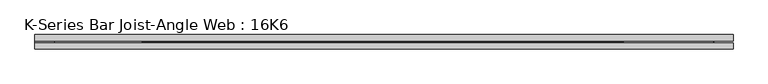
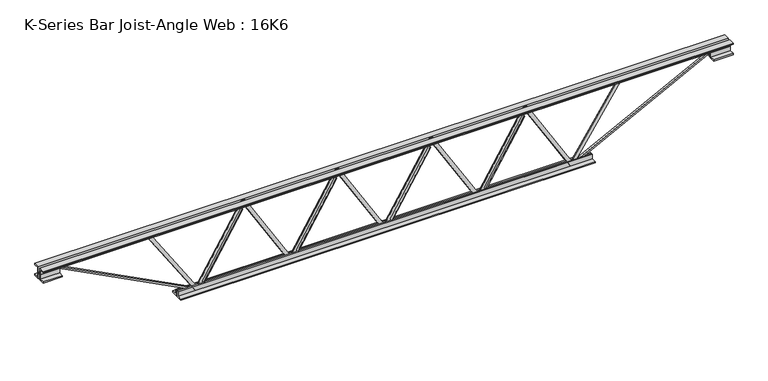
"""IFC4 building model written with IfcOpenShell, lengths in millimetres: beam geometry, K-Series Bar Joist-Angle Web : 16K6."""

from ifc_helpers import new_model, si_unit, frame, origin, place, context, project, spatial, polyline, outline, extrude, faceted_brep, source, transform, mapped, element, save


def k_series_bar_joist_angle_web_16k6_a3398b17(model_context):
    return source(origin(), model_context, "Body", "SolidModel", [
        extrude(outline(polyline([(-4.75, 4.7625), (-4.75, 0.0), (-17.45, 0.0), (-17.45, 4.7625), (-4.75, 4.7625)])), frame((452.6674322, 0.0, -164.9), z_axis=(-0.5172872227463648, 0.0, 0.8558118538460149), x_axis=(0.0, -1.0, 0.0)), (0.0, 0.0, 1.0), 385.3650759),
        extrude(outline(polyline([(-199.825, 485.5), (-180.775, 485.5), (-180.775, 484.5224883), (199.825, 254.4724883), (199.825, 236.4), (180.775, 236.4), (180.775, 243.7275117), (-199.825, 473.7775117), (-199.825, 485.5)])), frame((0.0, 0.0, 0.0), z_axis=(0.0, 1.0, 0.0), x_axis=(0.0, 0.0, 1.0)), (0.0, 0.0, 1.0), 4.75),
        faceted_brep([(0.0, 0.0, -180.775), (0.0, 0.0, -199.825), (0.0, -4.75, -199.825), (0.0, -4.75, -180.775), (0.9775117, 0.0, -180.775), (231.0275117, 0.0, 199.825), (249.1, 0.0, 199.825), (249.1, 0.0, 180.775), (241.7724883, 0.0, 180.775), (11.7224883, 0.0, -199.825), (11.7224883, -4.75, -199.825), (32.8325678, -4.75, -164.9), (28.7567639, -4.75, -162.4364196), (228.1011937, -4.75, 167.3635804), (232.1769977, -4.75, 164.9), (241.7724883, -4.75, 180.775), (249.1, -4.75, 180.775), (249.1, -4.75, 199.825), (231.0275117, -4.75, 199.825), (0.9775117, -4.75, -180.775), (232.1769977, -17.4625, 164.9), (32.8325678, -17.4625, -164.9), (28.7567639, -17.4625, -162.4364196), (228.1011937, -17.4625, 167.3635804)], [[[0, 1, 2, 3]], [[1, 0, 4, 5, 6, 7, 8, 9]], [[2, 1, 9, 10]], [[3, 2, 10, 11, 12, 13, 14, 15, 16, 17, 18, 19]], [[0, 3, 19, 4]], [[9, 8, 15, 14, 20, 21, 11, 10]], [[5, 4, 19, 18]], [[7, 6, 17, 16]], [[8, 7, 16, 15]], [[6, 5, 18, 17]], [[21, 22, 12, 11]], [[20, 14, 13, 23]], [[22, 21, 20, 23]], [[12, 22, 23, 13]]]),
        extrude(outline(polyline([(-4.75, 4.7625), (-4.75, 0.0), (-17.45, 0.0), (-17.45, 4.7625), (-4.75, 4.7625)])), frame((-32.8325678, 0.0, -164.9), z_axis=(-0.5172872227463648, 0.0, 0.8558118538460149), x_axis=(0.0, -1.0, 0.0)), (0.0, 0.0, 1.0), 385.3650759),
        extrude(outline(polyline([(-199.825, 0.0), (-180.775, 0.0), (-180.775, -0.9775117), (199.825, -231.0275117), (199.825, -249.1), (180.775, -249.1), (180.775, -241.7724883), (-199.825, -11.7224883), (-199.825, 0.0)])), frame((0.0, 0.0, 0.0), z_axis=(0.0, 1.0, 0.0), x_axis=(0.0, 0.0, 1.0)), (0.0, 0.0, 1.0), 4.75),
        faceted_brep([(-485.5, 0.0, -180.775), (-485.5, 0.0, -199.825), (-485.5, -4.75, -199.825), (-485.5, -4.75, -180.775), (-484.5224883, 0.0, -180.775), (-254.4724883, 0.0, 199.825), (-236.4, 0.0, 199.825), (-236.4, 0.0, 180.775), (-243.7275117, 0.0, 180.775), (-473.7775117, 0.0, -199.825), (-473.7775117, -4.75, -199.825), (-452.6674322, -4.75, -164.9), (-456.7432361, -4.75, -162.4364196), (-257.3988063, -4.75, 167.3635804), (-253.3230023, -4.75, 164.9), (-243.7275117, -4.75, 180.775), (-236.4, -4.75, 180.775), (-236.4, -4.75, 199.825), (-254.4724883, -4.75, 199.825), (-484.5224883, -4.75, -180.775), (-253.3230023, -17.4625, 164.9), (-452.6674322, -17.4625, -164.9), (-456.7432361, -17.4625, -162.4364196), (-257.3988063, -17.4625, 167.3635804)], [[[0, 1, 2, 3]], [[1, 0, 4, 5, 6, 7, 8, 9]], [[2, 1, 9, 10]], [[3, 2, 10, 11, 12, 13, 14, 15, 16, 17, 18, 19]], [[0, 3, 19, 4]], [[9, 8, 15, 14, 20, 21, 11, 10]], [[5, 4, 19, 18]], [[7, 6, 17, 16]], [[8, 7, 16, 15]], [[6, 5, 18, 17]], [[21, 22, 12, 11]], [[20, 14, 13, 23]], [[22, 21, 20, 23]], [[12, 22, 23, 13]]]),
        extrude(outline(polyline([(-4.75, 4.7625), (-4.75, 0.0), (-17.45, 0.0), (-17.45, 4.7625), (-4.75, 4.7625)])), frame((938.1674322, 0.0, -164.9), z_axis=(-0.5172872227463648, 0.0, 0.8558118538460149), x_axis=(0.0, -1.0, 0.0)), (0.0, 0.0, 1.0), 385.3650759),
        extrude(outline(polyline([(-199.825, 971.0), (-180.775, 971.0), (-180.775, 970.0224883), (199.825, 739.9724883), (199.825, 721.9), (180.775, 721.9), (180.775, 729.2275117), (-199.825, 959.2775117), (-199.825, 971.0)])), frame((0.0, 0.0, 0.0), z_axis=(0.0, 1.0, 0.0), x_axis=(0.0, 0.0, 1.0)), (0.0, 0.0, 1.0), 4.75),
        faceted_brep([(485.5, 0.0, -180.775), (485.5, 0.0, -199.825), (485.5, -4.75, -199.825), (485.5, -4.75, -180.775), (486.4775117, 0.0, -180.775), (716.5275117, 0.0, 199.825), (734.6, 0.0, 199.825), (734.6, 0.0, 180.775), (727.2724883, 0.0, 180.775), (497.2224883, 0.0, -199.825), (497.2224883, -4.75, -199.825), (518.3325678, -4.75, -164.9), (514.2567639, -4.75, -162.4364196), (713.6011937, -4.75, 167.3635804), (717.6769977, -4.75, 164.9), (727.2724883, -4.75, 180.775), (734.6, -4.75, 180.775), (734.6, -4.75, 199.825), (716.5275117, -4.75, 199.825), (486.4775117, -4.75, -180.775), (717.6769977, -17.4625, 164.9), (518.3325678, -17.4625, -164.9), (514.2567639, -17.4625, -162.4364196), (713.6011937, -17.4625, 167.3635804)], [[[0, 1, 2, 3]], [[1, 0, 4, 5, 6, 7, 8, 9]], [[2, 1, 9, 10]], [[3, 2, 10, 11, 12, 13, 14, 15, 16, 17, 18, 19]], [[0, 3, 19, 4]], [[9, 8, 15, 14, 20, 21, 11, 10]], [[5, 4, 19, 18]], [[7, 6, 17, 16]], [[8, 7, 16, 15]], [[6, 5, 18, 17]], [[21, 22, 12, 11]], [[20, 14, 13, 23]], [[22, 21, 20, 23]], [[12, 22, 23, 13]]]),
        extrude(outline(polyline([(-4.75, 4.7625), (-4.75, 0.0), (-17.45, 0.0), (-17.45, 4.7625), (-4.75, 4.7625)])), frame((-518.3325678, 0.0, -164.9), z_axis=(-0.5172872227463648, 0.0, 0.8558118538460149), x_axis=(0.0, -1.0, 0.0)), (0.0, 0.0, 1.0), 385.3650759),
        extrude(outline(polyline([(-199.825, -485.5), (-180.775, -485.5), (-180.775, -486.4775117), (199.825, -716.5275117), (199.825, -734.6), (180.775, -734.6), (180.775, -727.2724883), (-199.825, -497.2224883), (-199.825, -485.5)])), frame((0.0, 0.0, 0.0), z_axis=(0.0, 1.0, 0.0), x_axis=(0.0, 0.0, 1.0)), (0.0, 0.0, 1.0), 4.75),
        faceted_brep([(-971.0, 0.0, -180.775), (-971.0, 0.0, -199.825), (-971.0, -4.75, -199.825), (-971.0, -4.75, -180.775), (-970.0224883, 0.0, -180.775), (-739.9724883, 0.0, 199.825), (-721.9, 0.0, 199.825), (-721.9, 0.0, 180.775), (-729.2275117, 0.0, 180.775), (-959.2775117, 0.0, -199.825), (-959.2775117, -4.75, -199.825), (-938.1674322, -4.75, -164.9), (-942.2432361, -4.75, -162.4364196), (-742.8988063, -4.75, 167.3635804), (-738.8230023, -4.75, 164.9), (-729.2275117, -4.75, 180.775), (-721.9, -4.75, 180.775), (-721.9, -4.75, 199.825), (-739.9724883, -4.75, 199.825), (-970.0224883, -4.75, -180.775), (-738.8230023, -17.4625, 164.9), (-938.1674322, -17.4625, -164.9), (-942.2432361, -17.4625, -162.4364196), (-742.8988063, -17.4625, 167.3635804)], [[[0, 1, 2, 3]], [[1, 0, 4, 5, 6, 7, 8, 9]], [[2, 1, 9, 10]], [[3, 2, 10, 11, 12, 13, 14, 15, 16, 17, 18, 19]], [[0, 3, 19, 4]], [[9, 8, 15, 14, 20, 21, 11, 10]], [[5, 4, 19, 18]], [[7, 6, 17, 16]], [[8, 7, 16, 15]], [[6, 5, 18, 17]], [[21, 22, 12, 11]], [[20, 14, 13, 23]], [[22, 21, 20, 23]], [[12, 22, 23, 13]]]),
        extrude(outline(polyline([(4.75, 203.0), (36.75, 203.0), (36.75, 196.5), (11.25, 196.5), (11.25, 171.0), (4.75, 171.0), (4.75, 203.0)])), frame((-1783.0, 0.0, 0.0), z_axis=(1.0, 0.0, 0.0), x_axis=(0.0, 1.0, 0.0)), (0.0, 0.0, 1.0), 3566.0),
        extrude(outline(polyline([(-4.75, 203.0), (-4.75, 171.0), (-11.25, 171.0), (-11.25, 196.5), (-36.75, 196.5), (-36.75, 203.0), (-4.75, 203.0)])), frame((-1783.0, 0.0, 0.0), z_axis=(1.0, 0.0, 0.0), x_axis=(0.0, 1.0, 0.0)), (0.0, 0.0, 1.0), 3566.0),
        extrude(outline(polyline([(4.75, -203.0), (4.75, -171.0), (11.25, -171.0), (11.25, -196.5), (36.75, -196.5), (36.75, -203.0), (4.75, -203.0)])), frame((-1071.0, 0.0, 0.0), z_axis=(1.0, 0.0, 0.0), x_axis=(0.0, 1.0, 0.0)), (0.0, 0.0, 1.0), 2142.0),
        extrude(outline(polyline([(-4.75, -203.0), (-36.75, -203.0), (-36.75, -196.5), (-11.25, -196.5), (-11.25, -171.0), (-4.75, -171.0), (-4.75, -203.0)])), frame((-1071.0, 0.0, 0.0), z_axis=(1.0, 0.0, 0.0), x_axis=(0.0, 1.0, 0.0)), (0.0, 0.0, 1.0), 2142.0),
        extrude(outline(polyline([(4.75, 139.5), (4.75, 171.0), (11.25, 171.0), (11.25, 146.0), (36.75, 146.0), (36.75, 139.5), (4.75, 139.5)])), frame((1683.0, 0.0, 0.0), z_axis=(1.0, 0.0, 0.0), x_axis=(0.0, 1.0, 0.0)), (0.0, 0.0, 1.0), 100.0),
        extrude(outline(polyline([(-4.75, 139.5), (-36.75, 139.5), (-36.75, 146.0), (-11.25, 146.0), (-11.25, 171.0), (-4.75, 171.0), (-4.75, 139.5)])), frame((1683.0, 0.0, 0.0), z_axis=(1.0, 0.0, 0.0), x_axis=(0.0, 1.0, 0.0)), (0.0, 0.0, 1.0), 100.0),
        extrude(outline(polyline([(-4.75, 139.5), (-36.75, 139.5), (-36.75, 146.0), (-11.25, 146.0), (-11.25, 171.0), (-4.75, 171.0), (-4.75, 139.5)])), frame((-1783.0, 0.0, 0.0), z_axis=(1.0, 0.0, 0.0), x_axis=(0.0, 1.0, 0.0)), (0.0, 0.0, 1.0), 100.0),
        extrude(outline(polyline([(36.75, 139.5), (4.75, 139.5), (4.75, 171.0), (11.25, 171.0), (11.25, 146.0), (36.75, 146.0), (36.75, 139.5)])), frame((-1783.0, 0.0, 0.0), z_axis=(1.0, 0.0, 0.0), x_axis=(0.0, 1.0, 0.0)), (0.0, 0.0, 1.0), 100.0),
        extrude(outline(polyline([(193.9566712, -1233.7071429), (174.9066712, -1233.7071429), (174.9066712, -1225.8866618), (-201.6149893, -978.5584838), (-191.1561142, -962.6363472), (193.9566712, -1215.6078322), (193.9566712, -1233.7071429)])), frame((0.0, 0.0, 0.0), z_axis=(0.0, 1.0, 0.0), x_axis=(0.0, 0.0, 1.0)), (0.0, 0.0, 1.0), 4.7625),
        extrude(outline(polyline([(-4.7625, -10.5646146), (-4.7625, 8.4853854), (0.0, 8.4853854), (0.0, -10.5646146), (-4.7625, -10.5646146)])), frame((971.0, 0.0, -196.65), z_axis=(0.5510018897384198, 0.0, 0.8345039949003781), x_axis=(0.0, -1.0, 0.0)), (0.0, 0.0, 1.0), 440.5611025),
        extrude(outline(polyline([(-200.8705467, -973.1793315), (-192.4294533, -968.8206685), (175.75, -1681.8460208), (175.75, -1783.0), (166.25, -1783.0), (166.25, -1684.1539792), (-200.8705467, -973.1793315)])), frame((0.0, -4.75, 0.0), z_axis=(0.0, 1.0, 0.0), x_axis=(0.0, 0.0, 1.0)), (0.0, 0.0, 1.0), 9.5),
        extrude(outline(polyline([(0.0, -9.5), (0.0, 0.0), (801.3179909, 0.0), (801.3179909, -9.5), (0.0, -9.5)])), frame((1685.1793315, -4.75, 166.7794533), z_axis=(-0.4588066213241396, 0.0, 0.888536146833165), x_axis=(-0.888536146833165, 0.0, -0.4588066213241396)), (0.0, 0.0, 1.0), 9.5),
    ])


if __name__ == "__main__":
    model = new_model("IFC4")
    model_context = context("Model", 3, world=origin())
    ifc_project = project(units=[si_unit("LENGTHUNIT", "METRE", prefix="MILLI")], contexts=[model_context])
    site = spatial("IfcSite", under=ifc_project)
    building = spatial("IfcBuilding", under=site)
    placement = place(None, origin())
    k_series_bar_joist_angle_web_16k6_shape = k_series_bar_joist_angle_web_16k6_a3398b17(model_context)
    element("IfcBeam", 1, ObjectType="K-Series Bar Joist-Angle Web : 16K6", at=placement, inside=building, context=model_context, shape_type="MappedRepresentation", body=[
        mapped(k_series_bar_joist_angle_web_16k6_shape, transform((0.0, 0.0, 0.0), x_axis=(1.0, 0.0, 0.0), y_axis=(0.0, 1.0, 0.0), z_axis=(0.0, 0.0, 1.0))),
    ])
    save(model, "model.ifc")
